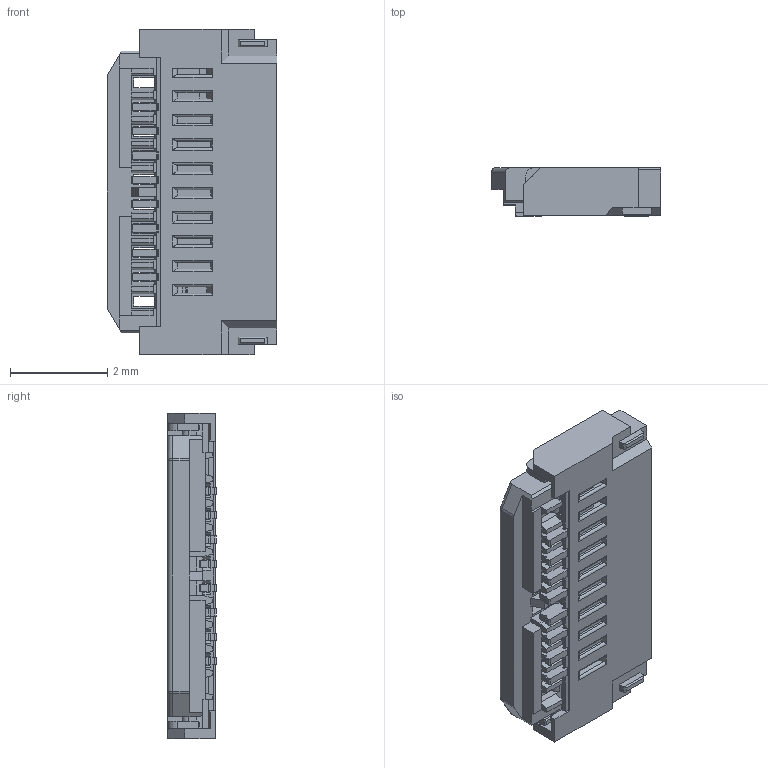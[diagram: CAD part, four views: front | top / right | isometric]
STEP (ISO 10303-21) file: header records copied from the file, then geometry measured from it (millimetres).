
FILE_DESCRIPTION (( 'STEP AP214' ), '1' );
FILE_NAME ('20597-RECE ASS''Y 6P ACT CLOSE.STEP', '2015-07-22T06:42:04', ( '' ), ( '' ), 'SwSTEP 2.0', 'SolidWorks 2012', '' );
FILE_SCHEMA (( 'AUTOMOTIVE_DESIGN' ));
Length unit declared in the file: millimetre
Products named in the file (1): 20597-RECE ASS''Y 6P ACT CLOSE
Bounding box: 3.5 x 1 x 6.7 mm (x, y, z)
Volume: 18.4 mm3; surface area: 85.7 mm2
Topology: 1 solids, 3 shells, 734 faces, 2150 edges, 1398 vertices
Faces by surface type: plane 564, cylinder 168, sphere 2
Entity records: 24249 total; most frequent: CARTESIAN_POINT 5043, ORIENTED_EDGE 4296, DIRECTION 3648, EDGE_CURVE 2148, LINE 1762, VECTOR 1762, VERTEX_POINT 1398, AXIS2_PLACEMENT_3D 943
